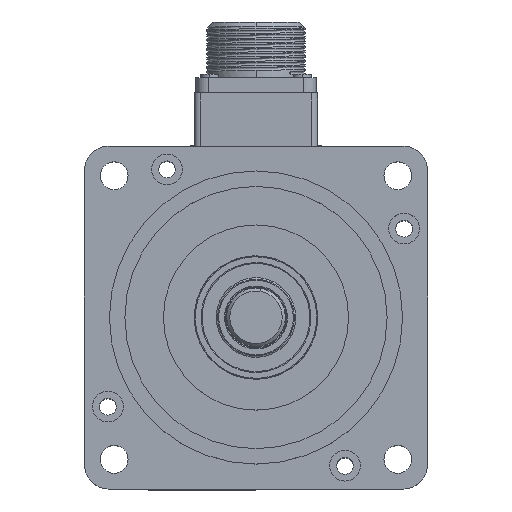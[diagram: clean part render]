
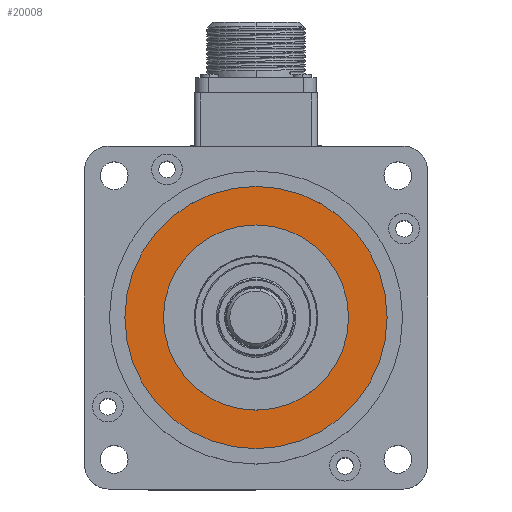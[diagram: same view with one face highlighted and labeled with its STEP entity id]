
A CAD part, top view. The second image highlights one B-rep face of the part: STEP entity #20008.
In plain terms, the highlighted planar face has unit normal (0, 0, 1).
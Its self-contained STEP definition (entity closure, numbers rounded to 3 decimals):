
#629 = ORIENTED_EDGE ( 'NONE', *, *, #24849, .F. ) ;
#791 = ORIENTED_EDGE ( 'NONE', *, *, #18586, .T. ) ;
#1829 = AXIS2_PLACEMENT_3D ( 'NONE', #11461, #24985, #13413 ) ;
#2064 = CARTESIAN_POINT ( 'NONE',  ( 0., 0., 84.5 ) ) ;
#3674 = CARTESIAN_POINT ( 'NONE',  ( 0., 30., 84.5 ) ) ;
#3951 = DIRECTION ( 'NONE',  ( 0., 0., -1. ) ) ;
#3979 = DIRECTION ( 'NONE',  ( -1., 0., 0. ) ) ;
#4079 = CARTESIAN_POINT ( 'NONE',  ( -30., 0., 84.5 ) ) ;
#6343 = AXIS2_PLACEMENT_3D ( 'NONE', #3674, #11477, #25006 ) ;
#7181 = CIRCLE ( 'NONE', #10526, 30. ) ;
#7420 = AXIS2_PLACEMENT_3D ( 'NONE', #2064, #15547, #3979 ) ;
#7712 = CARTESIAN_POINT ( 'NONE',  ( -42.5, 0., 84.5 ) ) ;
#8264 = DIRECTION ( 'NONE',  ( 0., 0., -1. ) ) ;
#8910 = FACE_BOUND ( 'NONE', #18239, .T. ) ;
#9488 = PLANE ( 'NONE',  #6343 ) ;
#10060 = AXIS2_PLACEMENT_3D ( 'NONE', #19855, #8264, #21829 ) ;
#10526 = AXIS2_PLACEMENT_3D ( 'NONE', #15509, #3951, #17482 ) ;
#11461 = CARTESIAN_POINT ( 'NONE',  ( 0., 0., 84.5 ) ) ;
#11477 = DIRECTION ( 'NONE',  ( 0., 0., -1. ) ) ;
#11617 = EDGE_LOOP ( 'NONE', ( #18577, #629 ) ) ;
#12492 = ORIENTED_EDGE ( 'NONE', *, *, #16738, .T. ) ;
#13359 = CIRCLE ( 'NONE', #7420, 30. ) ;
#13413 = DIRECTION ( 'NONE',  ( -1., 0., 0. ) ) ;
#14076 = FACE_OUTER_BOUND ( 'NONE', #11617, .T. ) ;
#14560 = VERTEX_POINT ( 'NONE', #4079 ) ;
#14992 = CARTESIAN_POINT ( 'NONE',  ( 42.5, 0., 84.5 ) ) ;
#15509 = CARTESIAN_POINT ( 'NONE',  ( 0., 0., 84.5 ) ) ;
#15541 = CIRCLE ( 'NONE', #1829, 42.5 ) ;
#15547 = DIRECTION ( 'NONE',  ( 0., 0., -1. ) ) ;
#16738 = EDGE_CURVE ( 'NONE', #17661, #14560, #13359, .T. ) ;
#17482 = DIRECTION ( 'NONE',  ( -1., 0., 0. ) ) ;
#17661 = VERTEX_POINT ( 'NONE', #24145 ) ;
#18239 = EDGE_LOOP ( 'NONE', ( #791, #12492 ) ) ;
#18577 = ORIENTED_EDGE ( 'NONE', *, *, #20824, .F. ) ;
#18586 = EDGE_CURVE ( 'NONE', #14560, #17661, #7181, .T. ) ;
#19855 = CARTESIAN_POINT ( 'NONE',  ( 0., 0., 84.5 ) ) ;
#20008 = ADVANCED_FACE ( 'NONE', ( #14076, #8910 ), #9488, .F. ) ;
#20733 = VERTEX_POINT ( 'NONE', #7712 ) ;
#20824 = EDGE_CURVE ( 'NONE', #20733, #23118, #22221, .T. ) ;
#21829 = DIRECTION ( 'NONE',  ( -1., 0., 0. ) ) ;
#22221 = CIRCLE ( 'NONE', #10060, 42.5 ) ;
#23118 = VERTEX_POINT ( 'NONE', #14992 ) ;
#24145 = CARTESIAN_POINT ( 'NONE',  ( 30., 0., 84.5 ) ) ;
#24849 = EDGE_CURVE ( 'NONE', #23118, #20733, #15541, .T. ) ;
#24985 = DIRECTION ( 'NONE',  ( 0., 0., -1. ) ) ;
#25006 = DIRECTION ( 'NONE',  ( -1., 0., 0. ) ) ;
